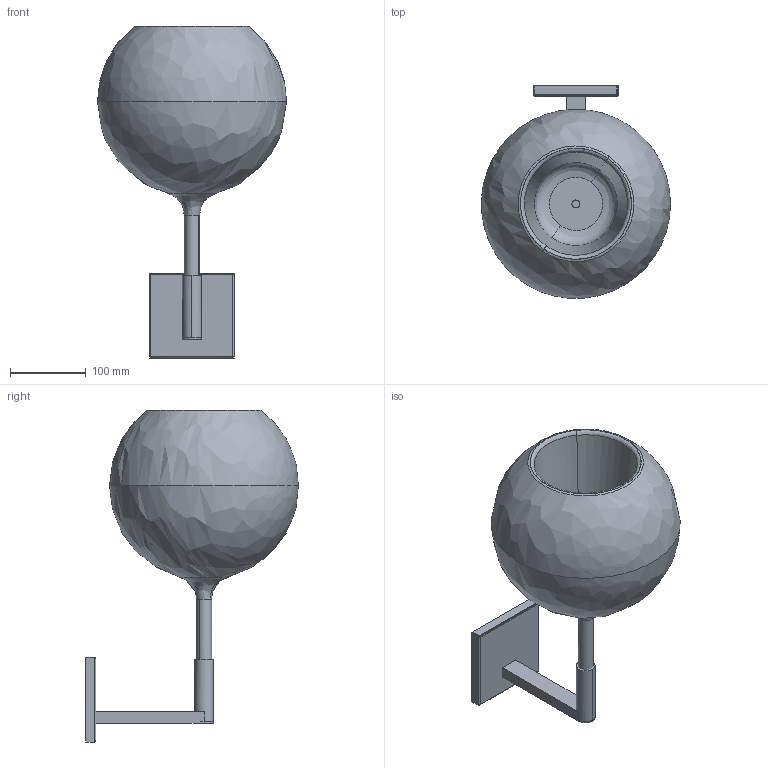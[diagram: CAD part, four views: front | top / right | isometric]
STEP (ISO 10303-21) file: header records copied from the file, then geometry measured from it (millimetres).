
FILE_DESCRIPTION(/* description */ (''),/* implementation_level */ '2;1');
FILE_NAME(/* name */ 'SEM000~2',/* time_stamp */ '2021-06-08T16:30:55+02:00',/* author */ (''),/* organization */ (''),/* preprocessor_version */ 'ST-DEVELOPER v16.5',/* originating_system */ '',/* authorisation */ '');
FILE_SCHEMA (('CONFIG_CONTROL_DESIGN'));
Length unit declared in the file: millimetre
Products named in the file (1): Document
Bounding box: 249.84 x 281.12 x 438.55 mm (x, y, z)
Volume: 654681.3 mm3; surface area: 580298.3 mm2
Topology: 4 solids, 5 shells, 123 faces, 291 edges, 175 vertices
Faces by surface type: plane 71, cylinder 26, bspline 26
Entity records: 4513 total; most frequent: CARTESIAN_POINT 2544, ORIENTED_EDGE 562, EDGE_CURVE 283, VERTEX_POINT 175, B_SPLINE_CURVE_WITH_KNOTS 160, EDGE_LOOP 135, ADVANCED_FACE 123, FACE_OUTER_BOUND 123
